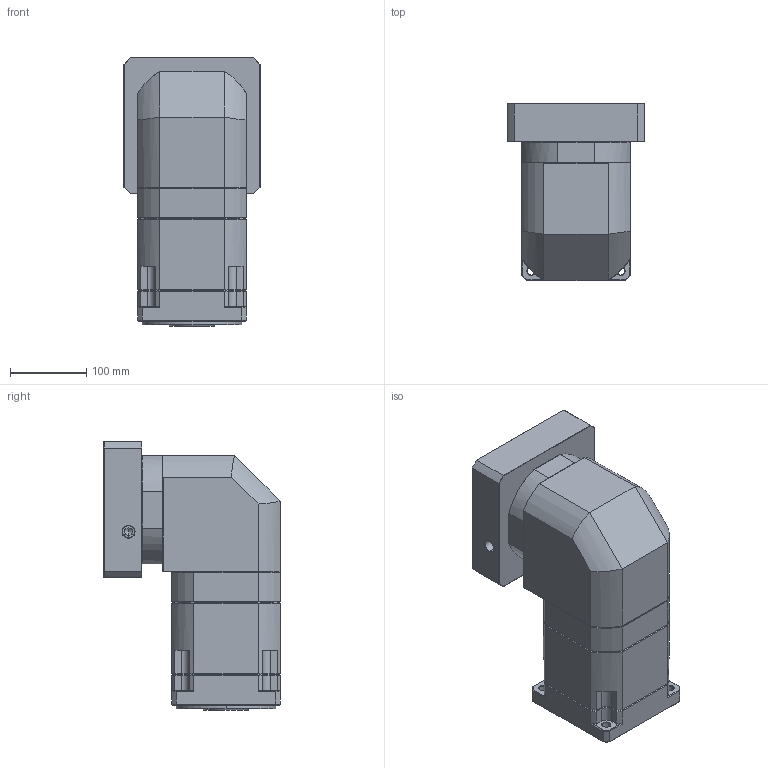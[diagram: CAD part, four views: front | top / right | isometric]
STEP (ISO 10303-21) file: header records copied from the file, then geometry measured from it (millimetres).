
FILE_DESCRIPTION (( 'STEP AP214' ), '1' );
FILE_NAME ('ZBR142A-K35-L3-P2-35-150-200-M12.step', '2023-09-02T07:18:15', ( '' ), ( '' ), 'SwSTEP 2.0', 'SolidWorks 2016', '' );
FILE_SCHEMA (( 'AUTOMOTIVE_DESIGN' ));
Length unit declared in the file: millimetre
Products named in the file (1): ZBR142A-K35-L3-P2-35-150-200-M12
Bounding box: 178 x 231 x 351.7 mm (x, y, z)
Volume: 7252480.9 mm3; surface area: 461870.8 mm2
Topology: 6 solids, 6 shells, 2263 faces, 5959 edges, 3802 vertices
Faces by surface type: plane 1125, bspline 403, cylinder 381, cone 334, torus 20
Entity records: 123030 total; most frequent: CARTESIAN_POINT 45393, ORIENTED_EDGE 11862, DIRECTION 9419, EDGE_CURVE 5931, LINE 3859, VECTOR 3859, VERTEX_POINT 3802, AXIS2_PLACEMENT_3D 2780
